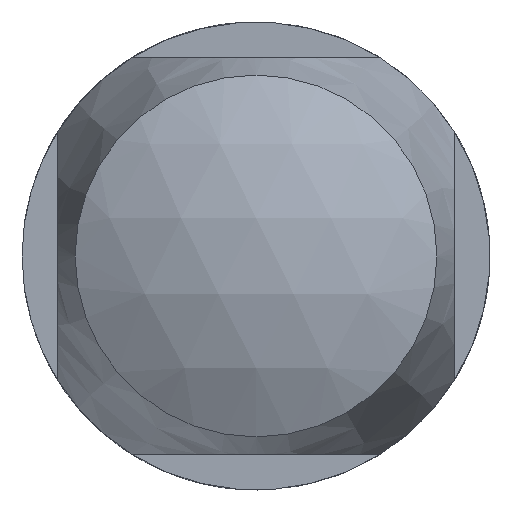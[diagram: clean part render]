
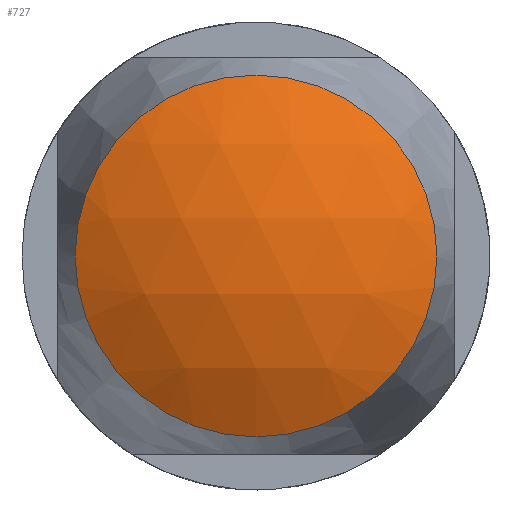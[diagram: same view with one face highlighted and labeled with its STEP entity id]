
A CAD part, front view. The second image highlights one B-rep face of the part: STEP entity #727.
In plain terms, the highlighted spherical face has radius 14.346 mm.
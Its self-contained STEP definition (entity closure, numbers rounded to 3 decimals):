
#19=SPHERICAL_SURFACE('',#798,14.346);
#253=FACE_OUTER_BOUND('',#316,.T.);
#316=EDGE_LOOP('',(#673));
#340=CIRCLE('',#799,7.306);
#406=VERTEX_POINT('',#1413);
#498=EDGE_CURVE('',#406,#406,#340,.T.);
#673=ORIENTED_EDGE('',*,*,#498,.F.);
#727=ADVANCED_FACE('',(#253),#19,.T.);
#798=AXIS2_PLACEMENT_3D('',#1412,#988,#989);
#799=AXIS2_PLACEMENT_3D('',#1414,#990,#991);
#988=DIRECTION('center_axis',(0.,0.,1.));
#989=DIRECTION('ref_axis',(1.,0.,0.));
#990=DIRECTION('center_axis',(0.,1.,0.));
#991=DIRECTION('ref_axis',(-1.,0.,0.));
#1412=CARTESIAN_POINT('Origin',(0.,-41.654,
0.));
#1413=CARTESIAN_POINT('',(-7.306,-54.,0.));
#1414=CARTESIAN_POINT('Origin',(0.,-54.,0.));
